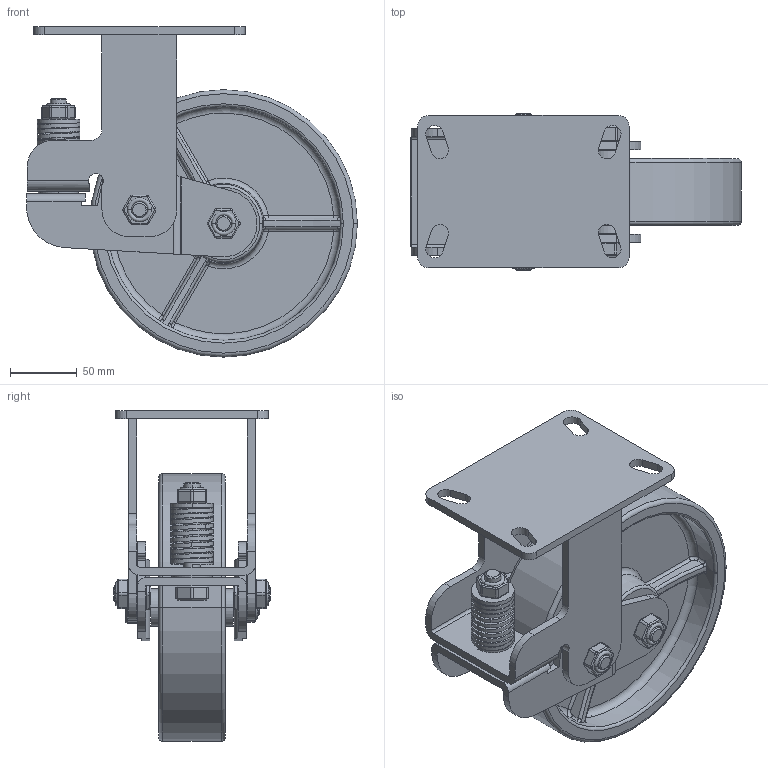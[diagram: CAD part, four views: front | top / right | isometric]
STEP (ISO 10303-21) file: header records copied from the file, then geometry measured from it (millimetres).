
FILE_DESCRIPTION(/* description */ (''),/* implementation_level */ '2;1');
FILE_NAME(/* name */ '45A06_8_F.stp',/* time_stamp */ '2022-08-29T11:17:05+08:00',/* author */ (''),/* organization */ (''),/* preprocessor_version */ 'ST-DEVELOPER v14',/* originating_system */ 'SIEMENS PLM Software NX 8.0',/* authorisation */ '');
FILE_SCHEMA (('AUTOMOTIVE_DESIGN { 1 0 10303 214 3 1 1 1 }'));
Length unit declared in the file: millimetre
Products named in the file (1): 45A06_8_F
Bounding box: 247.35 x 117.28 x 247 mm (x, y, z)
Volume: 1042836.3 mm3; surface area: 288226.4 mm2
Topology: 1 solids, 1 shells, 847 faces, 2088 edges, 1286 vertices
Faces by surface type: plane 337, cylinder 270, bspline 122, torus 66, cone 52
Entity records: 32529 total; most frequent: CARTESIAN_POINT 13441, ORIENTED_EDGE 4176, DIRECTION 3739, EDGE_CURVE 2088, AXIS2_PLACEMENT_3D 1416, VERTEX_POINT 1286, LINE 907, VECTOR 907
